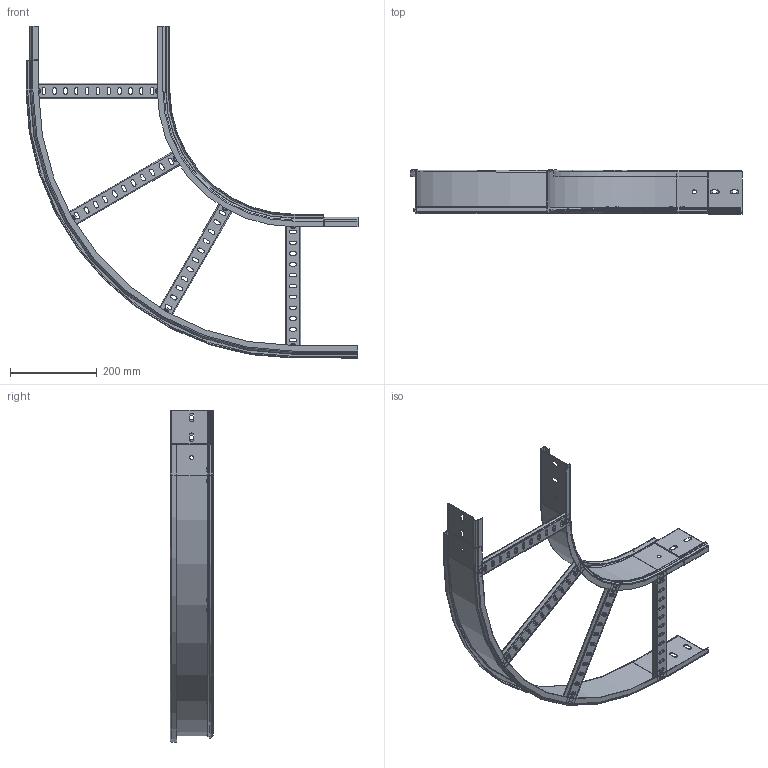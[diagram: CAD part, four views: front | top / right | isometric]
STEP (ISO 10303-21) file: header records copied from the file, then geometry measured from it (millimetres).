
FILE_DESCRIPTION (( 'STEP AP203' ), '1' );
FILE_NAME ('300x100.step', '2023-08-01T07:34:06', ( '' ), ( '' ), 'SwSTEP 2.0', 'SolidWorks 2022', '' );
FILE_SCHEMA (( 'CONFIG_CONTROL_DESIGN' ));
Length unit declared in the file: millimetre
Products named in the file (4): 300x100; FER_INTERIOR CP_Circular_Enchufable_100; FER_EXTERIOR CP_Circular_Enchufable_300x100; Travesaño RAT35 FER GS_300
Assembly tree (6 placements, depth 2):
  300x100
    FER_INTERIOR CP_Circular_Enchufable_100
    Travesaño RAT35 FER GS_300  x4
    FER_EXTERIOR CP_Circular_Enchufable_300x100
Bounding box: 766 x 101.5 x 766 mm (x, y, z)
Volume: 119508.2 mm3; surface area: 739171.4 mm2
Topology: 4 solids, 10 shells, 716 faces, 1782 edges, 1098 vertices
Faces by surface type: plane 376, cylinder 234, torus 86, cone 20
Entity records: 12018 total; most frequent: CARTESIAN_POINT 2080, DIRECTION 2074, ORIENTED_EDGE 1868, EDGE_CURVE 966, AXIS2_PLACEMENT_3D 742, VERTEX_POINT 594, VECTOR 590, LINE 590
